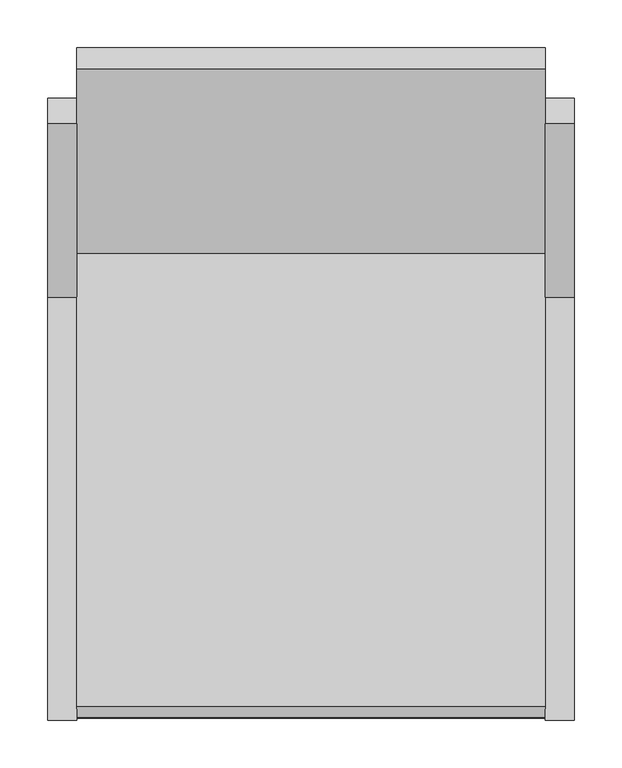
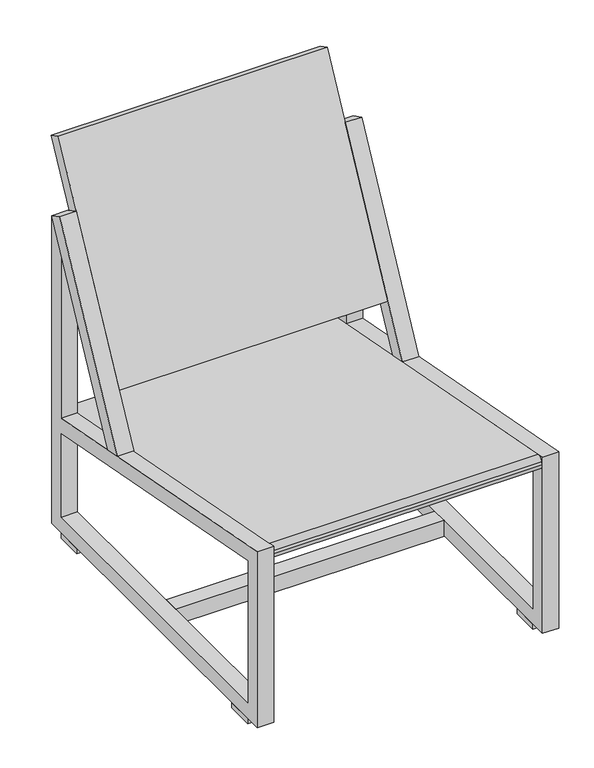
"""IFC4 building model written with IfcOpenShell, lengths in millimetres: furniture geometry, 1.4 Sillón : 1.4 Sillón."""

import ifcopenshell
import ifcopenshell.guid

model = None  # the IFC model being written
_history = None  # IfcOwnerHistory: only IFC2X3 demands one
_inside = {}  # id of a spatial element -> (the spatial element, [elements in it])
_under = {}  # id of a project, library or spatial element -> (it, [spatial elements below it])
_declared = {}  # id of a project -> (the project, [libraries it declares])
_typed = {}  # id of a type object -> (the type object, [elements of that type])
_made_of = {}  # id of a material, layer set ... -> (it, [elements and type objects made of it])


def new_model(schema):
    """Start an empty IFC model of exactly this schema.

    Asked for "IFC4X3", IfcOpenShell would pick the latest addendum, in which some entities
    have other attributes; the version numbers below select the first issue.
    IFC2X3 requires an IfcOwnerHistory on every rooted entity: one is made here for all.
    """
    global model, _history
    if schema == "IFC4X3":
        model = ifcopenshell.file(schema_version=(4, 3, 0, 0))
    else:
        model = ifcopenshell.file(schema=schema)
    _inside.clear()
    _under.clear()
    _declared.clear()
    _typed.clear()
    _made_of.clear()
    _history = None
    if model.schema == "IFC2X3":
        org = make("IfcOrganization", Name="unknown")
        user = make(
            "IfcPersonAndOrganization",
            ThePerson=make("IfcPerson", FamilyName="unknown"),
            TheOrganization=org,
        )
        app = make(
            "IfcApplication",
            ApplicationDeveloper=org,
            Version="unknown",
            ApplicationFullName="unknown",
            ApplicationIdentifier="unknown",
        )
        _history = make(
            "IfcOwnerHistory",
            OwningUser=user,
            OwningApplication=app,
            ChangeAction="ADDED",
            CreationDate=0,
        )
    return model


def make(cls, **values):
    """One entity of the class cls with the attributes given. An attribute that is None is left unset."""
    return model.create_entity(
        cls, **{name: value for name, value in values.items() if value is not None}
    )


def rooted(cls, **values):
    """An entity with a GlobalId (a new one), such as an element, a storey or a relation."""
    return make(cls, GlobalId=ifcopenshell.guid.new(), OwnerHistory=_history, **values)


def si_unit(unit_type, name, prefix=None):
    """IfcSIUnit, for example si_unit("LENGTHUNIT", "METRE", prefix="MILLI")."""
    return make("IfcSIUnit", UnitType=unit_type, Prefix=prefix, Name=name)


def assignment(units):
    """IfcUnitAssignment: the units of a project."""
    return None if units is None else make("IfcUnitAssignment", Units=units)


def point(xyz):
    """IfcCartesianPoint."""
    return None if xyz is None else make("IfcCartesianPoint", Coordinates=xyz)


def direction(xyz):
    """IfcDirection."""
    return None if xyz is None else make("IfcDirection", DirectionRatios=xyz)


def frame(location, z_axis=None, x_axis=None):
    """IfcAxis2Placement3D, a coordinate frame: its origin and axes. An axis left out is left unset."""
    return make(
        "IfcAxis2Placement3D",
        Location=point(location),
        Axis=direction(z_axis),
        RefDirection=direction(x_axis),
    )


def frame_2d(location, x_axis=None):
    """IfcAxis2Placement2D, a coordinate frame in the plane: its origin and x axis."""
    return make(
        "IfcAxis2Placement2D", Location=point(location), RefDirection=direction(x_axis)
    )


def origin():
    """The frame at (0, 0, 0) with its axes left unset."""
    return frame((0.0, 0.0, 0.0))


def origin_with_axes():
    """The frame at (0, 0, 0) with the z axis (0, 0, 1) and the x axis (1, 0, 0) written out."""
    return frame((0.0, 0.0, 0.0), z_axis=(0.0, 0.0, 1.0), x_axis=(1.0, 0.0, 0.0))


def place(relative_to, where):
    """IfcLocalPlacement: puts the frame where relative to a parent placement (None: the world)."""
    return make(
        "IfcLocalPlacement", PlacementRelTo=relative_to, RelativePlacement=where
    )


def context(
    kind, dimensions, precision=None, world=None, true_north=None, identifier=None
):
    """IfcGeometricRepresentationContext, for example the 3D "Model" context."""
    return make(
        "IfcGeometricRepresentationContext",
        ContextIdentifier=identifier,
        ContextType=kind,
        CoordinateSpaceDimension=dimensions,
        Precision=precision,
        WorldCoordinateSystem=world,
        TrueNorth=true_north,
    )


def project(units=None, contexts=None):
    """IfcProject with its units and contexts."""
    return rooted(
        "IfcProject",
        Name="project",
        RepresentationContexts=contexts,
        UnitsInContext=assignment(units),
    )


def spatial(cls, under=None, at=None, **own):
    """A site, building, storey or space (cls), placed at a placement, below another one or the project."""
    s = rooted(cls, ObjectPlacement=at, **own)
    if under is not None:
        _under.setdefault(under.id(), (under, []))[1].append(s)
    return s


def polyline(points):
    """IfcPolyline through the points."""
    return make("IfcPolyline", Points=[point(p) for p in points])


def circle_curve(where, radius):
    """IfcCircle in the frame where."""
    return make("IfcCircle", Position=where, Radius=radius)


def trimmed(basis, trim1, trim2, sense, master):
    """IfcTrimmedCurve: the piece of a basis curve between two trims."""
    return make(
        "IfcTrimmedCurve",
        BasisCurve=basis,
        Trim1=trim1,
        Trim2=trim2,
        SenseAgreement=sense,
        MasterRepresentation=master,
    )


def segment(curve, same_sense, transition):
    """IfcCompositeCurveSegment."""
    return make(
        "IfcCompositeCurveSegment",
        Transition=transition,
        SameSense=same_sense,
        ParentCurve=curve,
    )


def composite_curve(segments, self_intersect=None):
    """IfcCompositeCurve: segments joined end to end."""
    return make("IfcCompositeCurve", Segments=segments, SelfIntersect=self_intersect)


def outline(outer, holes=None, kind="AREA"):
    """IfcArbitraryClosedProfileDef: a profile drawn as a closed curve; with holes, ...WithVoids."""
    if holes is None:
        return make("IfcArbitraryClosedProfileDef", ProfileType=kind, OuterCurve=outer)
    return make(
        "IfcArbitraryProfileDefWithVoids",
        ProfileType=kind,
        OuterCurve=outer,
        InnerCurves=holes,
    )


def extrude(swept, where, along, depth):
    """IfcExtrudedAreaSolid: the profile swept, set in the frame where, extruded along a direction by depth."""
    return make(
        "IfcExtrudedAreaSolid",
        SweptArea=swept,
        Position=where,
        ExtrudedDirection=direction(along),
        Depth=depth,
    )


def shape(context_of_items, identifier, shape_type, items):
    """IfcShapeRepresentation: the items that make up one representation, for example the "Body"."""
    return make(
        "IfcShapeRepresentation",
        ContextOfItems=context_of_items,
        RepresentationIdentifier=identifier,
        RepresentationType=shape_type,
        Items=items,
    )


def source(mapping_origin, context_of_items, identifier, shape_type, items):
    """IfcRepresentationMap: a shape defined once, which mapped items show again and again."""
    return make(
        "IfcRepresentationMap",
        MappingOrigin=mapping_origin,
        MappedRepresentation=shape(context_of_items, identifier, shape_type, items),
    )


def transform(
    local_origin,
    x_axis=None,
    y_axis=None,
    z_axis=None,
    scale=None,
    scale2=None,
    scale3=None,
    uniform=True,
):
    """IfcCartesianTransformationOperator3D, or its non-uniform kind. x_axis, y_axis, z_axis: its Axis1, 2, 3."""
    if uniform:
        return make(
            "IfcCartesianTransformationOperator3D",
            Axis1=direction(x_axis),
            Axis2=direction(y_axis),
            LocalOrigin=point(local_origin),
            Scale=scale,
            Axis3=direction(z_axis),
        )
    return make(
        "IfcCartesianTransformationOperator3DnonUniform",
        Axis1=direction(x_axis),
        Axis2=direction(y_axis),
        LocalOrigin=point(local_origin),
        Scale=scale,
        Axis3=direction(z_axis),
        Scale2=scale2,
        Scale3=scale3,
    )


def mapped(mapping_source, mapping_target):
    """IfcMappedItem: shows the shape of a source again, moved by a transform."""
    return make(
        "IfcMappedItem", MappingSource=mapping_source, MappingTarget=mapping_target
    )


def made_of(thing, what):
    """Note that an element or type object is made of a material, layer set ...; save() writes the relation."""
    if what is not None:
        _made_of.setdefault(what.id(), (what, []))[1].append(thing)
    return thing


def element(
    cls,
    number,
    at=None,
    inside=None,
    cuts=None,
    type_object=None,
    material=None,
    context=None,
    identifier="Body",
    shape_type=None,
    held_by="IfcProductDefinitionShape",
    body=None,
    shapes=None,
    **own,
):
    """One element of the class cls, such as IfcWall. Its Tag is "e" and its number.

    at: its placement. inside: the storey or other place that contains it. cuts: it is an
    opening in that element (IfcRelVoidsElement). A single representation is given by context,
    identifier, shape_type and body (its items); several are given by shapes. held_by: the class
    of the entity that holds the representations. save() writes the other relations.
    """
    e = rooted(cls, Tag="e%d" % number, ObjectPlacement=at, **own)
    if body is not None:
        shapes = [shape(context, identifier, shape_type, body)]
    if shapes is not None:
        e.Representation = make(held_by, Representations=shapes)
    if inside is not None:
        _inside.setdefault(inside.id(), (inside, []))[1].append(e)
    if cuts is not None:
        rooted(
            "IfcRelVoidsElement", RelatingBuildingElement=cuts, RelatedOpeningElement=e
        )
    if type_object is not None:
        _typed.setdefault(type_object.id(), (type_object, []))[1].append(e)
    return made_of(e, material)


def aggregate(whole, parts):
    """IfcRelAggregates: a whole, such as a stair, and the parts it consists of."""
    return rooted("IfcRelAggregates", RelatingObject=whole, RelatedObjects=parts)


def save(model, path):
    """Write the relations noted so far, then the file.

    IfcRelAggregates (storeys below a building ...), IfcRelContainedInSpatialStructure (elements
    in a storey), IfcRelDefinesByType, IfcRelAssociatesMaterial and IfcRelDeclares: one each for
    every whole, place, type object, material and project.
    """
    for whole, parts in _under.values():
        aggregate(whole, parts)
    for where, things in _inside.values():
        rooted(
            "IfcRelContainedInSpatialStructure",
            RelatedElements=things,
            RelatingStructure=where,
        )
    for kind, things in _typed.values():
        rooted("IfcRelDefinesByType", RelatedObjects=things, RelatingType=kind)
    for what, things in _made_of.values():
        rooted("IfcRelAssociatesMaterial", RelatedObjects=things, RelatingMaterial=what)
    for by, libraries in _declared.values():
        rooted("IfcRelDeclares", RelatingContext=by, RelatedDefinitions=libraries)
    model.write(path)


def furniture_77244c26(model_context):
    return source(origin(), model_context, "Body", "SweptSolid", [
        extrude(outline(polyline([(147.6730251, 259.7099185), (116.9463627, 265.5793307), (298.335661, 617.3799611), (325.0, 603.6317602), (147.6730251, 259.7099185)])), frame((245.0, 0.0, 0.0), z_axis=(1.0, 0.0, 0.0), x_axis=(0.0, 1.0, 0.0)), (0.0, 0.0, 1.0), 30.0),
        extrude(outline(composite_curve([segment(polyline([(-310.4869055, 347.2277062), (325.0, 225.8368896), (320.3093077, 201.2808841), (-315.1775978, 322.6717007)]), True, "CONTINUOUS"), segment(trimmed(circle_curve(frame_2d((-313.3013209, 332.4941029)), 10.0), [point((-315.1775978, 322.6717007))], [point((-323.1237231, 334.3703799))], False, "CARTESIAN"), True, "CONTINUOUS"), segment(polyline([(-323.1237231, 334.3703799), (-322.1855846, 339.281581)]), True, "CONTINUOUS"), segment(trimmed(circle_curve(frame_2d((-312.3631824, 337.405304)), 10.0), [point((-322.1855846, 339.281581))], [point((-310.4869055, 347.2277062))], False, "CARTESIAN"), True, "CONTINUOUS")], self_intersect=False)), frame((-245.0, 0.0, 0.0), z_axis=(1.0, 0.0, 0.0), x_axis=(0.0, 1.0, 0.0)), (0.0, 0.0, 1.0), 490.0),
        extrude(outline(polyline([(295.0, 545.4474075), (325.0, 603.6317602), (325.0, 10.0), (-325.0, 10.0), (-325.0, 350.0), (295.0, 231.5674947), (295.0, 545.4474075)]), holes=[polyline([(295.0, 201.0250679), (-295.0, 313.7269681), (-295.0, 40.0), (295.0, 40.0), (295.0, 201.0250679)])]), frame((245.0, 0.0, 0.0), z_axis=(1.0, 0.0, 0.0), x_axis=(0.0, 1.0, 0.0)), (0.0, 0.0, 1.0), 30.0),
        extrude(outline(polyline([(147.6730251, 259.7099185), (116.9463627, 265.5793307), (298.335661, 617.3799611), (325.0, 603.6317602), (147.6730251, 259.7099185)])), frame((-275.0, 0.0, 0.0), z_axis=(1.0, 0.0, 0.0), x_axis=(0.0, 1.0, 0.0)), (0.0, 0.0, 1.0), 30.0),
        extrude(outline(polyline([(295.0, 545.4474075), (325.0, 603.6317602), (325.0, 10.0), (-325.0, 10.0), (-325.0, 350.0), (295.0, 231.5674947), (295.0, 545.4474075)]), holes=[polyline([(295.0, 40.0), (295.0, 201.0250679), (-295.0, 313.7269681), (-295.0, 40.0), (295.0, 40.0)])]), frame((-275.0, 0.0, 0.0), z_axis=(1.0, 0.0, 0.0), x_axis=(0.0, 1.0, 0.0)), (0.0, 0.0, 1.0), 30.0),
        extrude(outline(polyline([(245.0, -15.0), (-245.0, -15.0), (-245.0, 15.0), (245.0, 15.0), (245.0, -15.0)])), frame((0.0, 0.0, 10.0), z_axis=(0.0, 0.0, 1.0), x_axis=(1.0, 0.0, 0.0)), (0.0, 0.0, 1.0), 30.0),
        extrude(outline(polyline([(-490.0, 0.0), (-490.0, 25.0), (0.0, 25.0), (0.0, 0.0), (-490.0, 0.0)])), frame((245.0, 162.8391573, 354.5874156), z_axis=(0.0, 0.45827336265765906, 0.8888112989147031), x_axis=(1.0, 0.0, 0.0)), (0.0, 0.0, 1.0), 419.8754168),
        extrude(outline(polyline([(-490.0, 0.0), (-490.0, 25.0), (0.0, 25.0), (0.0, 0.0), (-490.0, 0.0)])), frame((245.0, -205.3916669, 296.6099691), z_axis=(0.0, 0.18762769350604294, 0.9822402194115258), x_axis=(1.0, 0.0, 0.0)), (0.0, 0.0, 1.0), 5.0),
        extrude(outline(polyline([(-490.0, 0.0), (-490.0, 25.0), (0.0, 25.0), (0.0, 0.0), (-490.0, 0.0)])), frame((245.0, 190.6157153, 220.9645717), z_axis=(0.0, 0.18762769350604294, 0.9822402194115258), x_axis=(1.0, 0.0, 0.0)), (0.0, 0.0, 1.0), 5.0),
        extrude(outline(polyline([(-378.1675494, 0.0), (-378.1675494, 25.0), (0.0, 25.0), (0.0, 0.0), (-378.1675494, 0.0)])), frame((-220.0, 190.6157153, 220.9645717), z_axis=(0.0, 0.18762769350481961, 0.9822402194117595), x_axis=(0.0, 0.9822402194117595, -0.18762769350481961)), (0.0, 0.0, 1.0), 5.0),
        extrude(outline(polyline([(-378.1675494, -25.0), (-378.1675494, 0.0), (0.0, 0.0), (0.0, -25.0), (-378.1675494, -25.0)])), frame((220.0, 190.6157153, 220.9645717), z_axis=(0.0, 0.18762769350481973, 0.9822402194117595), x_axis=(0.0, 0.9822402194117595, -0.18762769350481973)), (0.0, 0.0, 1.0), 5.0),
        extrude(outline(polyline([(-11.8089335, -4.8009467), (-12.747072, 0.1102544), (11.8089335, 4.8009468), (12.747072, -0.1102543), (-11.8089335, -4.8009467)])), frame((-232.5, 187.281468, 341.9848981), z_axis=(0.0, 0.4582733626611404, 0.8888112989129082), x_axis=(-0.9822402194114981, 0.1667656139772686, -0.08598477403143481)), (0.0, 0.0, 1.0), 295.6674221),
        extrude(outline(polyline([(245.0, -245.0), (275.0, -245.0), (275.0, -295.0), (245.0, -295.0), (245.0, -245.0)])), origin_with_axes(), (0.0, 0.0, 1.0), 10.0),
        extrude(outline(polyline([(245.0, 295.0), (275.0, 295.0), (275.0, 245.0), (245.0, 245.0), (245.0, 295.0)])), origin_with_axes(), (0.0, 0.0, 1.0), 10.0),
        extrude(outline(polyline([(-275.0, -245.0), (-245.0, -245.0), (-245.0, -295.0), (-275.0, -295.0), (-275.0, -245.0)])), origin_with_axes(), (0.0, 0.0, 1.0), 10.0),
        extrude(outline(polyline([(-275.0, 295.0), (-245.0, 295.0), (-245.0, 245.0), (-275.0, 245.0), (-275.0, 295.0)])), origin_with_axes(), (0.0, 0.0, 1.0), 10.0),
        extrude(outline(polyline([(-12.747072, -0.1102544), (-11.8089335, 4.8009467), (12.747072, 0.1102543), (11.8089335, -4.8009468), (-12.747072, -0.1102544)])), frame((232.5, 187.281468, 341.9848981), z_axis=(0.0, 0.4582733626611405, 0.8888112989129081), x_axis=(0.9822402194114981, 0.16676561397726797, -0.08598477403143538)), (0.0, 0.0, 1.0), 295.6674221),
    ])


if __name__ == "__main__":
    model = new_model("IFC4")
    model_context = context("Model", 3, world=origin())
    ifc_project = project(units=[si_unit("LENGTHUNIT", "METRE", prefix="MILLI")], contexts=[model_context])
    site = spatial("IfcSite", under=ifc_project)
    building = spatial("IfcBuilding", under=site)
    placement = place(None, origin())
    furniture_shape = furniture_77244c26(model_context)
    element("IfcFurniture", 1, ObjectType="1.4 Sillón : 1.4 Sillón", at=placement, inside=building, context=model_context, shape_type="MappedRepresentation", body=[
        mapped(furniture_shape, transform((0.0, 0.0, 0.0), x_axis=(1.0, 0.0, 0.0), y_axis=(0.0, 1.0, 0.0), z_axis=(0.0, 0.0, 1.0))),
    ])
    save(model, "model.ifc")
